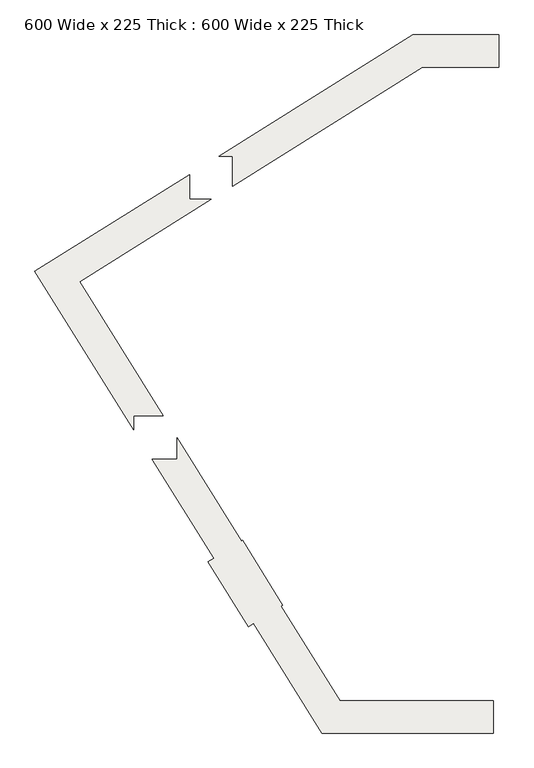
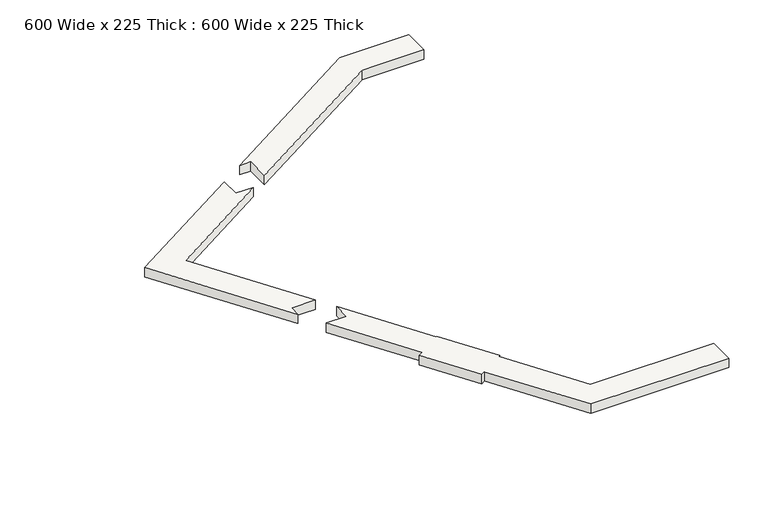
"""IFC4 building model written with IfcOpenShell, lengths in millimetres: slab geometry, 600 Wide x 225 Thick : 600 Wide x 225 Thick."""

from ifc_helpers import new_model, si_unit, frame, origin, place, context, project, spatial, polyline, outline, extrude, source, transform, mapped, element, save


def slab_600_wide_x_225_thick_600_wide_x_225_thick_d5cd6888(model_context):
    return source(origin(), model_context, "Body", "SweptSolid", [
        extrude(outline(polyline([(-28887.937126, 6187.0605711), (-28887.9371267, 5587.0605711), (-32060.1775849, 5587.0605711), (-33327.665214, 7615.464789), (-33423.0706248, 7555.8488718), (-34170.2567873, 8751.5966874), (-34060.0105348, 8820.4861917), (-35204.376745, 10651.8549517), (-34744.8558263, 10651.8549517), (-34744.8558263, 11048.7157121), (-33551.1816751, 9138.4377515), (-33534.2207148, 9149.0361358), (-32787.0345523, 7953.2883202), (-32818.8363563, 7933.4163476), (-31727.592154, 6187.0605711), (-28887.937126, 6187.0605711)])), frame((0.0, 0.0, -768.0), z_axis=(0.0, 0.0, 1.0), x_axis=(1.0, 0.0, 0.0)), (0.0, 0.0, 1.0), 225.0),
        extrude(outline(polyline([(-28786.9371132, 17897.336804), (-30201.253528, 17897.336804), (-33713.2346198, 15702.8074552), (-33713.2346198, 16254.423117), (-33962.7129784, 16254.423117), (-30373.3007594, 18497.336804), (-28786.9371125, 18497.336804), (-28786.9371132, 17897.336804)])), frame((0.0, 0.0, -768.0), z_axis=(0.0, 0.0, 1.0), x_axis=(1.0, 0.0, 0.0)), (0.0, 0.0, 1.0), 225.0),
        extrude(outline(polyline([(-34110.7326527, 15454.423117), (-36546.6966836, 13932.2638518), (-34996.7651817, 11451.8549517), (-35544.8558263, 11451.8549517), (-35544.8558263, 11196.7353819), (-37373.4771018, 14123.1411497), (-34513.2346198, 15910.4190157), (-34513.2346198, 15454.423117), (-34110.7326527, 15454.423117)])), frame((0.0, 0.0, -768.0), z_axis=(0.0, 0.0, 1.0), x_axis=(1.0, 0.0, 0.0)), (0.0, 0.0, 1.0), 225.0),
    ])


if __name__ == "__main__":
    model = new_model("IFC4")
    model_context = context("Model", 3, world=origin())
    ifc_project = project(units=[si_unit("LENGTHUNIT", "METRE", prefix="MILLI")], contexts=[model_context])
    site = spatial("IfcSite", under=ifc_project)
    building = spatial("IfcBuilding", under=site)
    placement = place(None, origin())
    slab_600_wide_x_225_thick_600_wide_x_225_thick_shape = slab_600_wide_x_225_thick_600_wide_x_225_thick_d5cd6888(model_context)
    element("IfcSlab", 1, ObjectType="600 Wide x 225 Thick : 600 Wide x 225 Thick", at=placement, inside=building, context=model_context, shape_type="MappedRepresentation", body=[
        mapped(slab_600_wide_x_225_thick_600_wide_x_225_thick_shape, transform((0.0, 0.0, 0.0), x_axis=(1.0, 0.0, 0.0), y_axis=(0.0, 1.0, 0.0), z_axis=(0.0, 0.0, 1.0))),
    ])
    save(model, "model.ifc")
